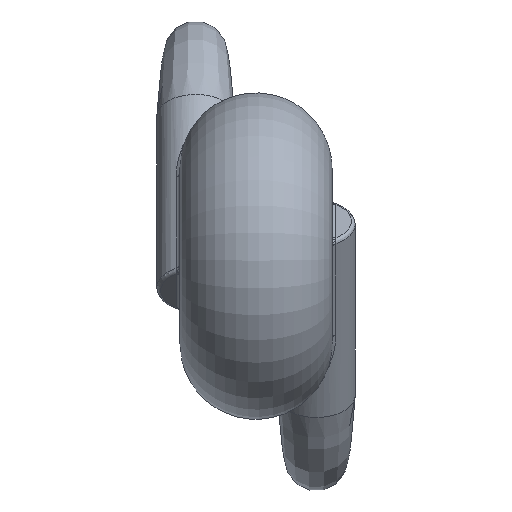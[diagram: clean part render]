
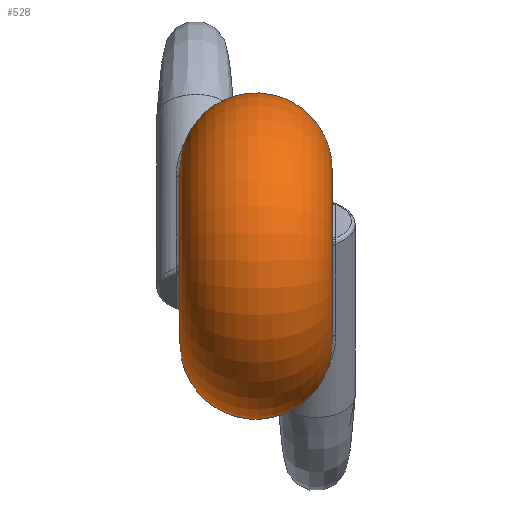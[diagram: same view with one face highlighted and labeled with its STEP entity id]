
A CAD part, left-side view. The second image highlights one B-rep face of the part: STEP entity #528.
In plain terms, the highlighted toroidal (fillet/blend) face has major radius 2.245 mm and minor radius 1.955 mm.
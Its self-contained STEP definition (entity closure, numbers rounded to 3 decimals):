
#20=TOROIDAL_SURFACE('',#582,2.245,1.955);
#77=B_SPLINE_CURVE_WITH_KNOTS('',3,(#1770,#1771,#1772,#1773,#1774,#1775,
#1776,#1777,#1778,#1779,#1780,#1781,#1782,#1783,#1784,#1785),
 .UNSPECIFIED.,.F.,.F.,(4,1,1,1,1,1,1,1,1,1,1,1,1,4),(-0.775,
-0.72,-0.665,-0.554,-0.498,
-0.443,-0.388,-0.332,-0.277,
-0.222,-0.166,-0.111,-0.055,
0.),.UNSPECIFIED.);
#78=B_SPLINE_CURVE_WITH_KNOTS('',3,(#1791,#1792,#1793,#1794,#1795,#1796,
#1797,#1798,#1799,#1800,#1801,#1802,#1803,#1804,#1805,#1806),
 .UNSPECIFIED.,.F.,.F.,(4,1,1,1,1,1,1,1,1,1,1,1,1,4),(-0.775,
-0.72,-0.665,-0.554,-0.498,
-0.443,-0.388,-0.332,-0.277,
-0.222,-0.166,-0.111,-0.055,
0.),.UNSPECIFIED.);
#95=FACE_BOUND('',#167,.T.);
#125=FACE_OUTER_BOUND('',#166,.T.);
#166=EDGE_LOOP('',(#417,#418));
#167=EDGE_LOOP('',(#419,#420));
#205=CIRCLE('',#583,2.245);
#206=CIRCLE('',#584,2.245);
#245=VERTEX_POINT('',#1685);
#246=VERTEX_POINT('',#1768);
#247=VERTEX_POINT('',#1789);
#248=VERTEX_POINT('',#1790);
#308=EDGE_CURVE('',#246,#245,#77,.T.);
#310=EDGE_CURVE('',#247,#248,#78,.T.);
#311=EDGE_CURVE('',#247,#248,#205,.T.);
#312=EDGE_CURVE('',#246,#245,#206,.T.);
#417=ORIENTED_EDGE('',*,*,#310,.T.);
#418=ORIENTED_EDGE('',*,*,#311,.F.);
#419=ORIENTED_EDGE('',*,*,#308,.T.);
#420=ORIENTED_EDGE('',*,*,#312,.F.);
#528=ADVANCED_FACE('',(#125,#95),#20,.T.);
#582=AXIS2_PLACEMENT_3D('',#1788,#693,#694);
#583=AXIS2_PLACEMENT_3D('',#1807,#695,#696);
#584=AXIS2_PLACEMENT_3D('',#1808,#697,#698);
#693=DIRECTION('center_axis',(0.,1.,0.));
#694=DIRECTION('ref_axis',(1.,0.,0.));
#695=DIRECTION('center_axis',(0.,-1.,0.));
#696=DIRECTION('ref_axis',(-1.,0.,0.));
#697=DIRECTION('center_axis',(0.,1.,0.));
#698=DIRECTION('ref_axis',(-1.,0.,0.));
#1685=CARTESIAN_POINT('',(0.742,3.1,2.119));
#1768=CARTESIAN_POINT('',(2.176,3.1,0.553));
#1770=CARTESIAN_POINT('Ctrl Pts',(2.176,3.1,0.553));
#1771=CARTESIAN_POINT('Ctrl Pts',(2.269,3.1,0.701));
#1772=CARTESIAN_POINT('Ctrl Pts',(2.469,3.074,0.983));
#1773=CARTESIAN_POINT('Ctrl Pts',(2.909,2.875,1.464));
#1774=CARTESIAN_POINT('Ctrl Pts',(3.278,2.441,1.865));
#1775=CARTESIAN_POINT('Ctrl Pts',(3.323,1.926,2.327));
#1776=CARTESIAN_POINT('Ctrl Pts',(3.16,1.597,2.708));
#1777=CARTESIAN_POINT('Ctrl Pts',(2.823,1.43,3.097));
#1778=CARTESIAN_POINT('Ctrl Pts',(2.394,1.494,3.428));
#1779=CARTESIAN_POINT('Ctrl Pts',(1.974,1.78,3.608));
#1780=CARTESIAN_POINT('Ctrl Pts',(1.641,2.183,3.567));
#1781=CARTESIAN_POINT('Ctrl Pts',(1.404,2.57,3.331));
#1782=CARTESIAN_POINT('Ctrl Pts',(1.215,2.871,2.969));
#1783=CARTESIAN_POINT('Ctrl Pts',(1.018,3.059,2.542));
#1784=CARTESIAN_POINT('Ctrl Pts',(0.843,3.1,2.254));
#1785=CARTESIAN_POINT('Ctrl Pts',(0.742,3.1,2.119));
#1788=CARTESIAN_POINT('Origin',(0.,1.145,0.));
#1789=CARTESIAN_POINT('',(2.176,-0.81,-0.553));
#1790=CARTESIAN_POINT('',(0.742,-0.81,-2.119));
#1791=CARTESIAN_POINT('Ctrl Pts',(2.176,-0.81,-0.553));
#1792=CARTESIAN_POINT('Ctrl Pts',(2.269,-0.81,-0.701));
#1793=CARTESIAN_POINT('Ctrl Pts',(2.469,-0.784,-0.983));
#1794=CARTESIAN_POINT('Ctrl Pts',(2.909,-0.585,-1.464));
#1795=CARTESIAN_POINT('Ctrl Pts',(3.278,-0.151,-1.865));
#1796=CARTESIAN_POINT('Ctrl Pts',(3.323,0.364,-2.327));
#1797=CARTESIAN_POINT('Ctrl Pts',(3.16,0.693,-2.708));
#1798=CARTESIAN_POINT('Ctrl Pts',(2.823,0.86,-3.097));
#1799=CARTESIAN_POINT('Ctrl Pts',(2.394,0.797,-3.428));
#1800=CARTESIAN_POINT('Ctrl Pts',(1.974,0.51,-3.608));
#1801=CARTESIAN_POINT('Ctrl Pts',(1.641,0.107,-3.567));
#1802=CARTESIAN_POINT('Ctrl Pts',(1.404,-0.28,-3.331));
#1803=CARTESIAN_POINT('Ctrl Pts',(1.215,-0.581,-2.969));
#1804=CARTESIAN_POINT('Ctrl Pts',(1.018,-0.769,-2.542));
#1805=CARTESIAN_POINT('Ctrl Pts',(0.843,-0.81,-2.254));
#1806=CARTESIAN_POINT('Ctrl Pts',(0.742,-0.81,-2.119));
#1807=CARTESIAN_POINT('Origin',(0.,-0.81,0.));
#1808=CARTESIAN_POINT('Origin',(0.,3.1,0.));
